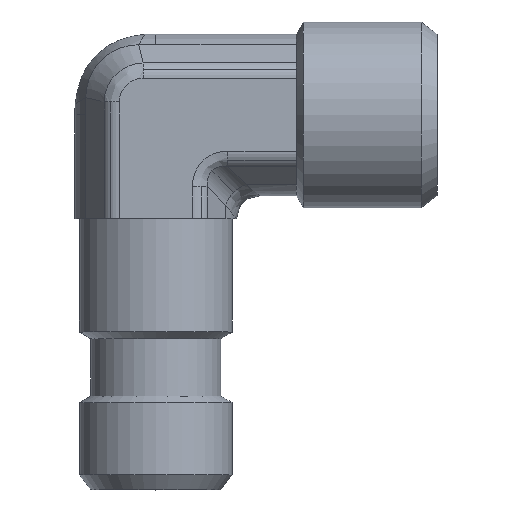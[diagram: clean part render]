
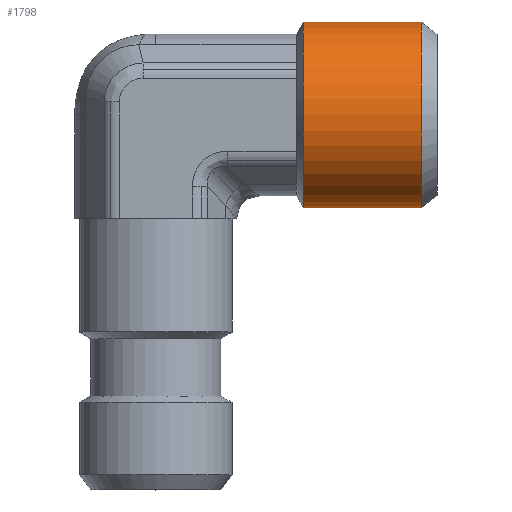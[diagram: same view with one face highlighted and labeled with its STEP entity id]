
A CAD part, top view. The second image highlights one B-rep face of the part: STEP entity #1798.
In plain terms, the highlighted cylindrical face has radius 7.925 mm (diameter 15.85 mm), a partial arc.
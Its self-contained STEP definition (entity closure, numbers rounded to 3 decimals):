
#936=CARTESIAN_POINT('',(3.425,0.,12.592));
#937=VERTEX_POINT('',#936);
#970=CARTESIAN_POINT('',(-12.425,0.,12.592));
#971=VERTEX_POINT('',#970);
#995=CARTESIAN_POINT('',(3.425,0.,22.64));
#996=VERTEX_POINT('',#995);
#1012=CARTESIAN_POINT('',(-12.425,0.,22.64));
#1013=VERTEX_POINT('',#1012);
#1020=CARTESIAN_POINT('',(-4.5,0.,22.64));
#1021=DIRECTION('',(0.0,0.0,1.0));
#1022=DIRECTION('',(1.0,0.0,0.0));
#1023=AXIS2_PLACEMENT_3D('',#1020,#1021,#1022);
#1024=CIRCLE('',#1023,7.925);
#1025=EDGE_CURVE('',#1013,#996,#1024,.T.);
#1192=CARTESIAN_POINT('',(3.425,0.,12.592));
#1193=DIRECTION('',(0.0,0.0,1.0));
#1194=VECTOR('',#1193,10.048);
#1195=LINE('',#1192,#1194);
#1196=EDGE_CURVE('',#937,#996,#1195,.T.);
#1199=CARTESIAN_POINT('',(-12.425,0.,22.64));
#1200=DIRECTION('',(0.0,0.0,-1.0));
#1201=VECTOR('',#1200,10.048);
#1202=LINE('',#1199,#1201);
#1203=EDGE_CURVE('',#1013,#971,#1202,.T.);
#1781=CARTESIAN_POINT('',(-4.5,0.,25.5));
#1782=DIRECTION('',(0.,0.,-1.0));
#1783=DIRECTION('',(1.0,0.0,0.0));
#1784=AXIS2_PLACEMENT_3D('',#1781,#1782,#1783);
#1785=CYLINDRICAL_SURFACE('',#1784,7.925);
#1786=ORIENTED_EDGE('',*,*,#1196,.T.);
#1787=ORIENTED_EDGE('',*,*,#1025,.F.);
#1788=ORIENTED_EDGE('',*,*,#1203,.T.);
#1789=CARTESIAN_POINT('',(-4.5,0.,12.592));
#1790=DIRECTION('',(0.0,0.0,-1.0));
#1791=DIRECTION('',(-1.0,0.0,0.0));
#1792=AXIS2_PLACEMENT_3D('',#1789,#1790,#1791);
#1793=CIRCLE('',#1792,7.925);
#1794=EDGE_CURVE('',#937,#971,#1793,.T.);
#1795=ORIENTED_EDGE('',*,*,#1794,.F.);
#1796=EDGE_LOOP('',(#1786,#1787,#1788,#1795));
#1797=FACE_OUTER_BOUND('',#1796,.T.);
#1798=ADVANCED_FACE('',(#1797),#1785,.T.);
